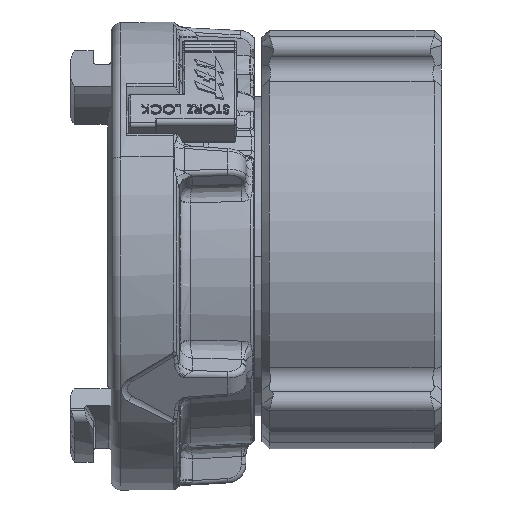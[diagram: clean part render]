
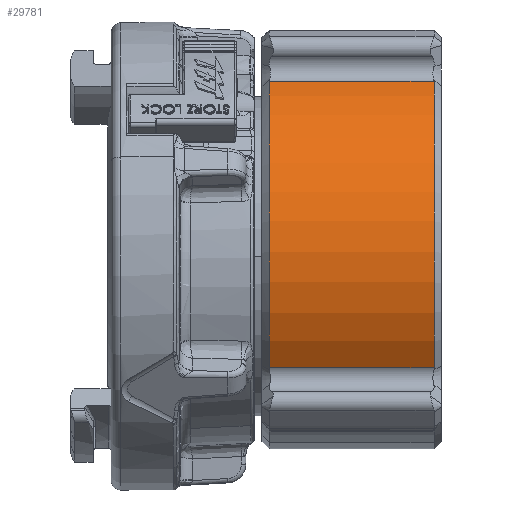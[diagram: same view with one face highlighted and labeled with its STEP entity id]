
A CAD part, top view. The second image highlights one B-rep face of the part: STEP entity #29781.
In plain terms, the highlighted cylindrical face has radius 64.135 mm (diameter 128.27 mm), a partial arc.
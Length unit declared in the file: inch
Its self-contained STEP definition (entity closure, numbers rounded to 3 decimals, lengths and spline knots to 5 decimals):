
#534 = AXIS2_PLACEMENT_3D ( 'NONE', #27340, #27341, #27342 ) ;
#552 = AXIS2_PLACEMENT_3D ( 'NONE', #27711, #27712, #27713 ) ;
#3740 = VERTEX_POINT ( 'NONE', #17790 ) ;
#3782 = VERTEX_POINT ( 'NONE', #17843 ) ;
#4291 = VERTEX_POINT ( 'NONE', #18383 ) ;
#4310 = VERTEX_POINT ( 'NONE', #18409 ) ;
#5469 = FACE_OUTER_BOUND ( 'NONE', #33153, .T. ) ;
#5475 = CYLINDRICAL_SURFACE ( 'NONE', #46401, 2.525 ) ;
#11136 = ORIENTED_EDGE ( 'NONE', *, *, #34508, .T. ) ;
#11137 = ORIENTED_EDGE ( 'NONE', *, *, #34509, .T. ) ;
#11138 = ORIENTED_EDGE ( 'NONE', *, *, #34506, .F. ) ;
#11139 = ORIENTED_EDGE ( 'NONE', *, *, #34429, .F. ) ;
#17790 = CARTESIAN_POINT ( 'NONE',  ( 2.07013, -1.45945, 2.06049 ) ) ;
#17843 = CARTESIAN_POINT ( 'NONE',  ( 4.22987, -1.45945, 2.06049 ) ) ;
#18383 = CARTESIAN_POINT ( 'NONE',  ( 4.22987, 2.29417, 1.05471 ) ) ;
#18409 = CARTESIAN_POINT ( 'NONE',  ( 2.07013, 2.29417, 1.05471 ) ) ;
#20755 = DIRECTION ( 'NONE',  ( 0., -0.966, 0.259 ) ) ;
#20757 = DIRECTION ( 'NONE',  ( 1., 0., 0. ) ) ;
#20759 = CARTESIAN_POINT ( 'NONE',  ( 1.975, 0., 0. ) ) ;
#27340 = CARTESIAN_POINT ( 'NONE',  ( 2.07013, 0., 0. ) ) ;
#27341 = DIRECTION ( 'NONE',  ( -1., 0., 0. ) ) ;
#27342 = DIRECTION ( 'NONE',  ( 0., -0.966, 0.259 ) ) ;
#27701 = CARTESIAN_POINT ( 'NONE',  ( 1.975, 2.29417, 1.05471 ) ) ;
#27702 = DIRECTION ( 'NONE',  ( 1., 0., 0. ) ) ;
#27706 = CARTESIAN_POINT ( 'NONE',  ( 1.975, -1.45945, 2.06049 ) ) ;
#27708 = DIRECTION ( 'NONE',  ( 1., 0., 0. ) ) ;
#27711 = CARTESIAN_POINT ( 'NONE',  ( 4.22987, 0., 0. ) ) ;
#27712 = DIRECTION ( 'NONE',  ( -1., 0., 0. ) ) ;
#27713 = DIRECTION ( 'NONE',  ( 0., 0.966, -0.259 ) ) ;
#29781 = ADVANCED_FACE ( 'NONE', ( #5469 ), #5475, .T. ) ;
#33153 = EDGE_LOOP ( 'NONE', ( #11136, #11137, #11138, #11139 ) ) ;
#34429 = EDGE_CURVE ( 'NONE', #3740, #4310, #39547, .T. ) ;
#34506 = EDGE_CURVE ( 'NONE', #4310, #4291, #39617, .T. ) ;
#34508 = EDGE_CURVE ( 'NONE', #3740, #3782, #39621, .T. ) ;
#34509 = EDGE_CURVE ( 'NONE', #3782, #4291, #39619, .T. ) ;
#39547 = CIRCLE ( 'NONE', #534, 2.525 ) ;
#39617 = LINE ( 'NONE', #27701, #39620 ) ;
#39619 = CIRCLE ( 'NONE', #552, 2.525 ) ;
#39620 = VECTOR ( 'NONE', #27702, 39.37008 ) ;
#39621 = LINE ( 'NONE', #27706, #39622 ) ;
#39622 = VECTOR ( 'NONE', #27708, 39.37008 ) ;
#46401 = AXIS2_PLACEMENT_3D ( 'NONE', #20759, #20757, #20755 ) ;
